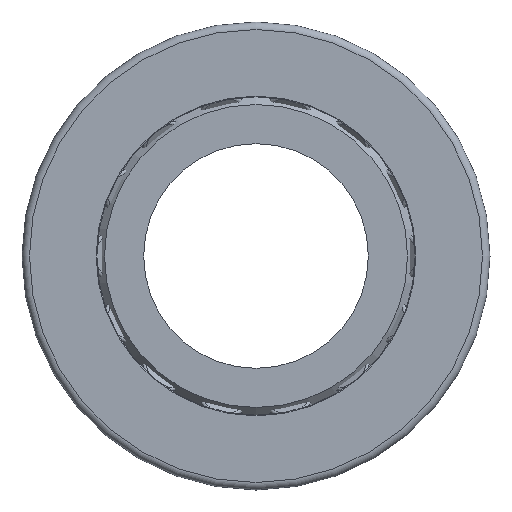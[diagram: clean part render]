
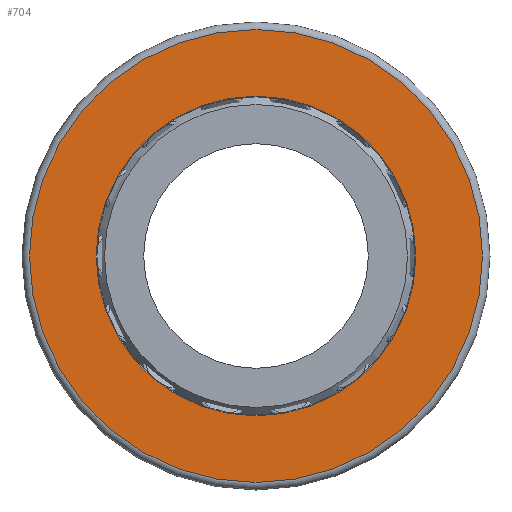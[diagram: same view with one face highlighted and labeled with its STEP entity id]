
A CAD part, front view. The second image highlights one B-rep face of the part: STEP entity #704.
In plain terms, the highlighted planar face has unit normal (0, -1, 0).
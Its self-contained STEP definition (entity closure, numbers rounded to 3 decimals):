
#127=PLANE('',#767);
#166=FACE_BOUND('',#285,.T.);
#230=FACE_OUTER_BOUND('',#284,.T.);
#284=EDGE_LOOP('',(#576));
#285=EDGE_LOOP('',(#577));
#397=CIRCLE('',#766,85.39);
#398=CIRCLE('',#768,121.);
#443=VERTEX_POINT('',#1159);
#444=VERTEX_POINT('',#1162);
#506=EDGE_CURVE('',#443,#443,#397,.T.);
#507=EDGE_CURVE('',#444,#444,#398,.T.);
#576=ORIENTED_EDGE('',*,*,#507,.F.);
#577=ORIENTED_EDGE('',*,*,#506,.F.);
#704=ADVANCED_FACE('',(#230,#166),#127,.T.);
#766=AXIS2_PLACEMENT_3D('',#1160,#895,#896);
#767=AXIS2_PLACEMENT_3D('',#1161,#897,#898);
#768=AXIS2_PLACEMENT_3D('',#1163,#899,#900);
#895=DIRECTION('center_axis',(0.,-1.,0.));
#896=DIRECTION('ref_axis',(-1.,0.,0.));
#897=DIRECTION('center_axis',(0.,-1.,0.));
#898=DIRECTION('ref_axis',(0.,0.,-1.));
#899=DIRECTION('center_axis',(0.,1.,0.));
#900=DIRECTION('ref_axis',(-1.,0.,0.));
#1159=CARTESIAN_POINT('',(85.39,-39.,0.));
#1160=CARTESIAN_POINT('Origin',(0.,-39.,0.));
#1161=CARTESIAN_POINT('Origin',(85.,-39.,0.));
#1162=CARTESIAN_POINT('',(121.,-39.,0.));
#1163=CARTESIAN_POINT('Origin',(0.,-39.,0.));
